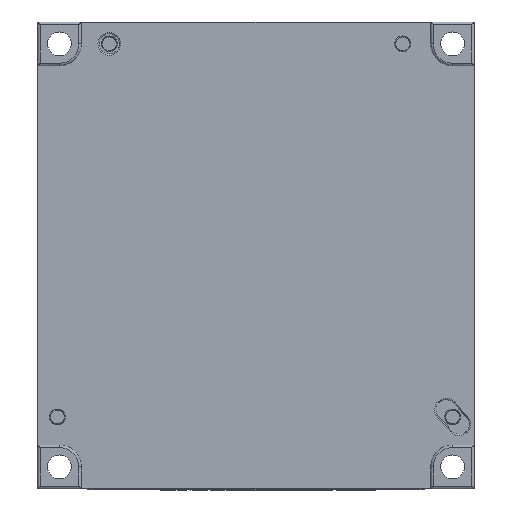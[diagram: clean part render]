
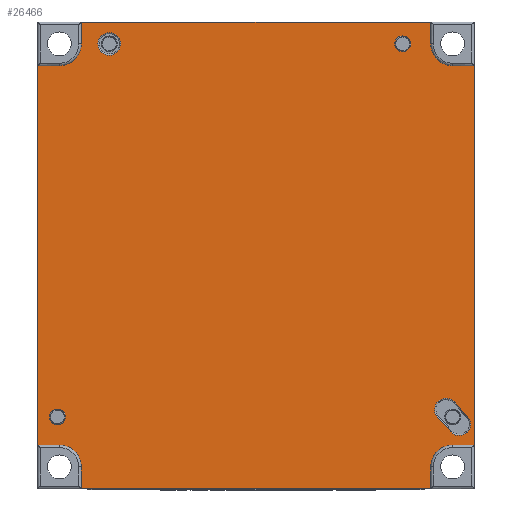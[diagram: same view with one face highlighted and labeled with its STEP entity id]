
A CAD part, front view. The second image highlights one B-rep face of the part: STEP entity #26466.
In plain terms, the highlighted planar face has unit normal (0, -1, 0).
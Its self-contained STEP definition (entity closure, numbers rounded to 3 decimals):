
#3004=CIRCLE('',#28010,1.125);
#3005=CIRCLE('',#28011,1.125);
#3006=CIRCLE('',#28012,1.125);
#3007=CIRCLE('',#28013,1.125);
#3008=CIRCLE('',#28014,1.145);
#3009=CIRCLE('',#28015,2.2);
#3010=CIRCLE('',#28016,2.2);
#3011=CIRCLE('',#28017,2.2);
#3012=CIRCLE('',#28018,2.2);
#3013=CIRCLE('',#28019,0.8);
#3014=CIRCLE('',#28020,0.8);
#3341=VERTEX_POINT('',#35320);
#3342=VERTEX_POINT('',#35322);
#3499=VERTEX_POINT('',#35735);
#3500=VERTEX_POINT('',#35736);
#3501=VERTEX_POINT('',#35738);
#3502=VERTEX_POINT('',#35740);
#3503=VERTEX_POINT('',#35742);
#3504=VERTEX_POINT('',#35744);
#3505=VERTEX_POINT('',#35746);
#3506=VERTEX_POINT('',#35748);
#3507=VERTEX_POINT('',#35751);
#3508=VERTEX_POINT('',#35753);
#3509=VERTEX_POINT('',#35754);
#3510=VERTEX_POINT('',#35756);
#3511=VERTEX_POINT('',#35758);
#3512=VERTEX_POINT('',#35760);
#3513=VERTEX_POINT('',#35762);
#3514=VERTEX_POINT('',#35764);
#3515=VERTEX_POINT('',#35766);
#3516=VERTEX_POINT('',#35769);
#3517=VERTEX_POINT('',#35771);
#3518=VERTEX_POINT('',#35773);
#3519=VERTEX_POINT('',#35775);
#3520=VERTEX_POINT('',#35777);
#3521=VERTEX_POINT('',#35779);
#3522=VERTEX_POINT('',#35781);
#3523=VERTEX_POINT('',#35783);
#3524=VERTEX_POINT('',#35785);
#3525=VERTEX_POINT('',#35787);
#3526=VERTEX_POINT('',#35790);
#3527=VERTEX_POINT('',#35792);
#5785=VECTOR('',#29781,1.);
#5969=VECTOR('',#30069,1.);
#5970=VECTOR('',#30072,1.);
#5971=VECTOR('',#30075,1.);
#5972=VECTOR('',#30078,1.);
#5973=VECTOR('',#30083,1.);
#5974=VECTOR('',#30084,1.);
#5975=VECTOR('',#30085,1.);
#5976=VECTOR('',#30088,1.);
#5977=VECTOR('',#30089,1.);
#5978=VECTOR('',#30090,1.);
#5979=VECTOR('',#30091,1.);
#5980=VECTOR('',#30092,1.);
#5981=VECTOR('',#30093,1.);
#5982=VECTOR('',#30096,1.);
#5983=VECTOR('',#30097,1.);
#5984=VECTOR('',#30098,1.);
#5985=VECTOR('',#30101,1.);
#5986=VECTOR('',#30102,1.);
#5987=VECTOR('',#30103,1.);
#8648=LINE('',#35321,#5785);
#8832=LINE('',#35737,#5969);
#8833=LINE('',#35741,#5970);
#8834=LINE('',#35745,#5971);
#8835=LINE('',#35749,#5972);
#8836=LINE('',#35755,#5973);
#8837=LINE('',#35757,#5974);
#8838=LINE('',#35759,#5975);
#8839=LINE('',#35763,#5976);
#8840=LINE('',#35765,#5977);
#8841=LINE('',#35767,#5978);
#8842=LINE('',#35768,#5979);
#8843=LINE('',#35770,#5980);
#8844=LINE('',#35772,#5981);
#8845=LINE('',#35776,#5982);
#8846=LINE('',#35778,#5983);
#8847=LINE('',#35780,#5984);
#8848=LINE('',#35784,#5985);
#8849=LINE('',#35786,#5986);
#8850=LINE('',#35788,#5987);
#11511=EDGE_CURVE('',#3342,#3341,#8648,.T.);
#11720=EDGE_CURVE('',#3499,#3500,#3004,.T.);
#11721=EDGE_CURVE('',#3500,#3501,#8832,.T.);
#11722=EDGE_CURVE('',#3501,#3502,#3005,.T.);
#11723=EDGE_CURVE('',#3502,#3503,#8833,.T.);
#11724=EDGE_CURVE('',#3503,#3504,#3006,.T.);
#11725=EDGE_CURVE('',#3504,#3505,#8834,.T.);
#11726=EDGE_CURVE('',#3505,#3506,#3007,.T.);
#11727=EDGE_CURVE('',#3506,#3499,#8835,.T.);
#11728=EDGE_CURVE('',#3507,#3507,#3008,.T.);
#11729=EDGE_CURVE('',#3508,#3509,#3009,.T.);
#11730=EDGE_CURVE('',#3510,#3508,#8836,.T.);
#11731=EDGE_CURVE('',#3510,#3511,#8837,.T.);
#11732=EDGE_CURVE('',#3512,#3511,#8838,.T.);
#11733=EDGE_CURVE('',#3513,#3512,#3010,.T.);
#11734=EDGE_CURVE('',#3514,#3513,#8839,.T.);
#11735=EDGE_CURVE('',#3514,#3515,#8840,.T.);
#11736=EDGE_CURVE('',#3515,#3342,#8841,.T.);
#11737=EDGE_CURVE('',#3516,#3341,#8842,.T.);
#11738=EDGE_CURVE('',#3516,#3517,#8843,.T.);
#11739=EDGE_CURVE('',#3518,#3517,#8844,.T.);
#11740=EDGE_CURVE('',#3519,#3518,#3011,.T.);
#11741=EDGE_CURVE('',#3520,#3519,#8845,.T.);
#11742=EDGE_CURVE('',#3520,#3521,#8846,.T.);
#11743=EDGE_CURVE('',#3522,#3521,#8847,.T.);
#11744=EDGE_CURVE('',#3523,#3522,#3012,.T.);
#11745=EDGE_CURVE('',#3524,#3523,#8848,.T.);
#11746=EDGE_CURVE('',#3524,#3525,#8849,.T.);
#11747=EDGE_CURVE('',#3509,#3525,#8850,.T.);
#11748=EDGE_CURVE('',#3526,#3526,#3013,.T.);
#11749=EDGE_CURVE('',#3527,#3527,#3014,.T.);
#15692=ORIENTED_EDGE('',*,*,#11720,.T.);
#15693=ORIENTED_EDGE('',*,*,#11721,.T.);
#15694=ORIENTED_EDGE('',*,*,#11722,.T.);
#15695=ORIENTED_EDGE('',*,*,#11723,.T.);
#15696=ORIENTED_EDGE('',*,*,#11724,.T.);
#15697=ORIENTED_EDGE('',*,*,#11725,.T.);
#15698=ORIENTED_EDGE('',*,*,#11726,.T.);
#15699=ORIENTED_EDGE('',*,*,#11727,.T.);
#15700=ORIENTED_EDGE('',*,*,#11728,.T.);
#15701=ORIENTED_EDGE('',*,*,#11729,.F.);
#15702=ORIENTED_EDGE('',*,*,#11730,.F.);
#15703=ORIENTED_EDGE('',*,*,#11731,.T.);
#15704=ORIENTED_EDGE('',*,*,#11732,.F.);
#15705=ORIENTED_EDGE('',*,*,#11733,.F.);
#15706=ORIENTED_EDGE('',*,*,#11734,.F.);
#15707=ORIENTED_EDGE('',*,*,#11735,.T.);
#15708=ORIENTED_EDGE('',*,*,#11736,.T.);
#15709=ORIENTED_EDGE('',*,*,#11511,.T.);
#15710=ORIENTED_EDGE('',*,*,#11737,.F.);
#15711=ORIENTED_EDGE('',*,*,#11738,.T.);
#15712=ORIENTED_EDGE('',*,*,#11739,.F.);
#15713=ORIENTED_EDGE('',*,*,#11740,.F.);
#15714=ORIENTED_EDGE('',*,*,#11741,.F.);
#15715=ORIENTED_EDGE('',*,*,#11742,.T.);
#15716=ORIENTED_EDGE('',*,*,#11743,.F.);
#15717=ORIENTED_EDGE('',*,*,#11744,.F.);
#15718=ORIENTED_EDGE('',*,*,#11745,.F.);
#15719=ORIENTED_EDGE('',*,*,#11746,.T.);
#15720=ORIENTED_EDGE('',*,*,#11747,.F.);
#15721=ORIENTED_EDGE('',*,*,#11748,.T.);
#15722=ORIENTED_EDGE('',*,*,#11749,.T.);
#23143=EDGE_LOOP('',(#15692,#15693,#15694,#15695,#15696,#15697,#15698,#15699));
#23144=EDGE_LOOP('',(#15700));
#23145=EDGE_LOOP('',(#15701,#15702,#15703,#15704,#15705,#15706,#15707,#15708,
#15709,#15710,#15711,#15712,#15713,#15714,#15715,#15716,#15717,#15718,#15719,
#15720));
#23146=EDGE_LOOP('',(#15721));
#23147=EDGE_LOOP('',(#15722));
#24806=FACE_BOUND('',#23143,.T.);
#24807=FACE_BOUND('',#23144,.T.);
#24808=FACE_BOUND('',#23145,.T.);
#24809=FACE_BOUND('',#23146,.T.);
#24810=FACE_BOUND('',#23147,.T.);
#26466=ADVANCED_FACE('',(#24806,#24807,#24808,#24809,#24810),#46417,.T.);
#28009=AXIS2_PLACEMENT_3D('',#35733,#30066,$);
#28010=AXIS2_PLACEMENT_3D('',#35734,#30067,#30068);
#28011=AXIS2_PLACEMENT_3D('',#35739,#30070,#30071);
#28012=AXIS2_PLACEMENT_3D('',#35743,#30073,#30074);
#28013=AXIS2_PLACEMENT_3D('',#35747,#30076,#30077);
#28014=AXIS2_PLACEMENT_3D('',#35750,#30079,#30080);
#28015=AXIS2_PLACEMENT_3D('',#35752,#30081,#30082);
#28016=AXIS2_PLACEMENT_3D('',#35761,#30086,#30087);
#28017=AXIS2_PLACEMENT_3D('',#35774,#30094,#30095);
#28018=AXIS2_PLACEMENT_3D('',#35782,#30099,#30100);
#28019=AXIS2_PLACEMENT_3D('',#35789,#30104,#30105);
#28020=AXIS2_PLACEMENT_3D('',#35791,#30106,#30107);
#29781=DIRECTION('',(-1.,0.,0.));
#30066=DIRECTION('',(0.,-1.,0.));
#30067=DIRECTION('',(0.,1.,0.));
#30068=DIRECTION('',(0.,0.,-1.125));
#30069=DIRECTION('',(-0.677,0.,0.736));
#30070=DIRECTION('',(0.,1.,0.));
#30071=DIRECTION('',(0.,0.,-1.125));
#30072=DIRECTION('',(0.736,0.,0.677));
#30073=DIRECTION('',(0.,1.,0.));
#30074=DIRECTION('',(0.,0.,-1.125));
#30075=DIRECTION('',(0.677,0.,-0.736));
#30076=DIRECTION('',(0.,1.,0.));
#30077=DIRECTION('',(0.,0.,-1.125));
#30078=DIRECTION('',(-0.736,0.,-0.677));
#30079=DIRECTION('',(0.,1.,0.));
#30080=DIRECTION('',(0.,0.,-1.145));
#30081=DIRECTION('',(0.,-1.,0.));
#30082=DIRECTION('',(0.,0.,-2.2));
#30083=DIRECTION('',(-1.,0.,0.));
#30084=DIRECTION('',(0.,0.,1.));
#30085=DIRECTION('',(1.,0.,0.));
#30086=DIRECTION('',(0.,-1.,0.));
#30087=DIRECTION('',(0.,0.,-2.2));
#30088=DIRECTION('',(0.,0.,-1.));
#30089=DIRECTION('',(1.,0.,0.));
#30090=DIRECTION('',(0.,0.,1.));
#30091=DIRECTION('',(0.,0.,1.));
#30092=DIRECTION('',(1.,0.,0.));
#30093=DIRECTION('',(0.,0.,1.));
#30094=DIRECTION('',(0.,-1.,0.));
#30095=DIRECTION('',(0.,0.,2.2));
#30096=DIRECTION('',(1.,0.,0.));
#30097=DIRECTION('',(0.,0.,-1.));
#30098=DIRECTION('',(-1.,0.,0.));
#30099=DIRECTION('',(0.,-1.,0.));
#30100=DIRECTION('',(0.,0.,2.2));
#30101=DIRECTION('',(0.,0.,1.));
#30102=DIRECTION('',(1.,0.,0.));
#30103=DIRECTION('',(0.,0.,-1.));
#30104=DIRECTION('',(0.,1.,0.));
#30105=DIRECTION('',(0.,0.,-0.8));
#30106=DIRECTION('',(0.,1.,0.));
#30107=DIRECTION('',(0.,0.,-0.8));
#35320=CARTESIAN_POINT('',(0.,-0.25,0.001));
#35321=CARTESIAN_POINT('',(39.6,-0.25,0.001));
#35322=CARTESIAN_POINT('',(44.,-0.25,0.001));
#35733=CARTESIAN_POINT('',(0.,-0.25,0.));
#35734=CARTESIAN_POINT('',(42.462,-0.25,-40.522));
#35735=CARTESIAN_POINT('',(43.224,-0.25,-41.35));
#35736=CARTESIAN_POINT('',(41.635,-0.25,-41.284));
#35737=CARTESIAN_POINT('',(40.28,-0.25,-39.812));
#35738=CARTESIAN_POINT('',(40.28,-0.25,-39.812));
#35739=CARTESIAN_POINT('',(41.108,-0.25,-39.051));
#35740=CARTESIAN_POINT('',(40.346,-0.25,-38.223));
#35741=CARTESIAN_POINT('',(40.376,-0.25,-38.196));
#35742=CARTESIAN_POINT('',(40.376,-0.25,-38.196));
#35743=CARTESIAN_POINT('',(41.138,-0.25,-39.024));
#35744=CARTESIAN_POINT('',(41.965,-0.25,-38.262));
#35745=CARTESIAN_POINT('',(43.32,-0.25,-39.734));
#35746=CARTESIAN_POINT('',(43.32,-0.25,-39.734));
#35747=CARTESIAN_POINT('',(42.492,-0.25,-40.495));
#35748=CARTESIAN_POINT('',(43.254,-0.25,-41.323));
#35749=CARTESIAN_POINT('',(43.224,-0.25,-41.35));
#35750=CARTESIAN_POINT('',(7.225,-0.25,-2.2));
#35751=CARTESIAN_POINT('',(7.225,-0.25,-3.345));
#35752=CARTESIAN_POINT('',(41.8,-0.25,-44.8));
#35753=CARTESIAN_POINT('',(41.8,-0.25,-42.6));
#35754=CARTESIAN_POINT('',(39.6,-0.25,-44.8));
#35755=CARTESIAN_POINT('',(44.,-0.25,-42.6));
#35756=CARTESIAN_POINT('',(44.,-0.25,-42.6));
#35757=CARTESIAN_POINT('',(44.,-0.25,-42.6));
#35758=CARTESIAN_POINT('',(44.,-0.25,-4.4));
#35759=CARTESIAN_POINT('',(41.8,-0.25,-4.4));
#35760=CARTESIAN_POINT('',(41.8,-0.25,-4.4));
#35761=CARTESIAN_POINT('',(41.8,-0.25,-2.2));
#35762=CARTESIAN_POINT('',(39.6,-0.25,-2.2));
#35763=CARTESIAN_POINT('',(39.6,-0.25,0.));
#35764=CARTESIAN_POINT('',(39.6,-0.25,0.));
#35765=CARTESIAN_POINT('',(44.,-0.25,0.));
#35766=CARTESIAN_POINT('',(44.,-0.25,0.));
#35767=CARTESIAN_POINT('',(44.,-0.25,0.));
#35768=CARTESIAN_POINT('',(0.,-0.25,0.));
#35769=CARTESIAN_POINT('',(0.,-0.25,0.));
#35770=CARTESIAN_POINT('',(4.4,-0.25,0.));
#35771=CARTESIAN_POINT('',(4.4,-0.25,0.));
#35772=CARTESIAN_POINT('',(4.4,-0.25,-2.2));
#35773=CARTESIAN_POINT('',(4.4,-0.25,-2.2));
#35774=CARTESIAN_POINT('',(2.2,-0.25,-2.2));
#35775=CARTESIAN_POINT('',(2.2,-0.25,-4.4));
#35776=CARTESIAN_POINT('',(0.,-0.25,-4.4));
#35777=CARTESIAN_POINT('',(0.,-0.25,-4.4));
#35778=CARTESIAN_POINT('',(0.,-0.25,-4.4));
#35779=CARTESIAN_POINT('',(0.,-0.25,-42.6));
#35780=CARTESIAN_POINT('',(2.2,-0.25,-42.6));
#35781=CARTESIAN_POINT('',(2.2,-0.25,-42.6));
#35782=CARTESIAN_POINT('',(2.2,-0.25,-44.8));
#35783=CARTESIAN_POINT('',(4.4,-0.25,-44.8));
#35784=CARTESIAN_POINT('',(4.4,-0.25,-47.));
#35785=CARTESIAN_POINT('',(4.4,-0.25,-47.));
#35786=CARTESIAN_POINT('',(4.4,-0.25,-47.));
#35787=CARTESIAN_POINT('',(39.6,-0.25,-47.));
#35788=CARTESIAN_POINT('',(39.6,-0.25,-44.8));
#35789=CARTESIAN_POINT('',(2.,-0.25,-39.773));
#35790=CARTESIAN_POINT('',(2.,-0.25,-40.573));
#35791=CARTESIAN_POINT('',(36.775,-0.25,-2.2));
#35792=CARTESIAN_POINT('',(36.775,-0.25,-3.));
#46417=PLANE('',#28009);
